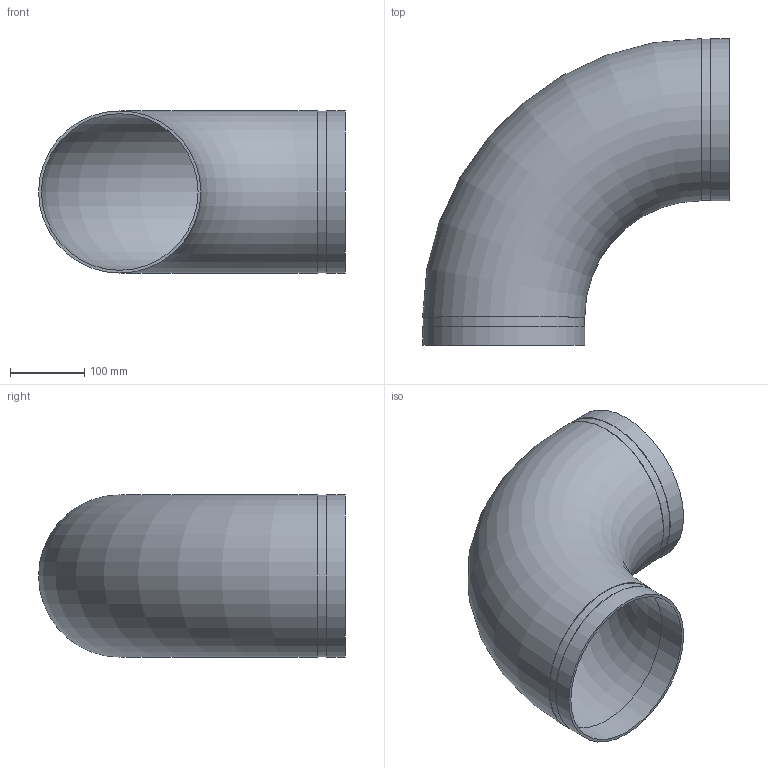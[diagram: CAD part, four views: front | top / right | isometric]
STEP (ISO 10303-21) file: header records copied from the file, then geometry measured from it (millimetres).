
FILE_DESCRIPTION(/* description */ ('VIC 90 DEG ELBOW STYLE 401DX','CAx-IF Rec.Pracs.---Representation and Presentation of Product Manufacturing Information (PMI)---4.0---2014-10-13'),/* implementation_level */ '2;1');
FILE_NAME(/* name */ 'C:\Users\kkamble\AppData\Roaming\Autodesk\ApplicationPlugins\Back Up\Victaulic_SS-StrengThin_Elbow 90 Deg_No 401DX (STG)\Victaulic_SS-StrengThin_Elbow 90 Deg_No 401DX (STG)_8 (200).stp',/* time_stamp */ '2020-08-17T13:28:21+06:00',/* author */ ('cps_temp'),/* organization */ ('Victaulic'),/* preprocessor_version */ 'ST-DEVELOPER v17.2',/* originating_system */ 'Autodesk Inventor 2019',/* authorisation */ '');
FILE_SCHEMA (('AP242_MANAGED_MODEL_BASED_3D_ENGINEERING_MIM_LF { 1 0 10303 442 1 1 4 }'));
Length unit declared in the file: inch
Products named in the file (1): 401DX-08.0
Bounding box: 414.34 x 414.34 x 219.07 mm (x, y, z)
Volume: 1247977.7 mm3; surface area: 676575.4 mm2
Topology: 1 solids, 1 shells, 14 faces, 30 edges, 22 vertices
Faces by surface type: plane 6, cylinder 6, torus 2
Full cylindrical faces by diameter (mm): 211.557 x2, 217.805 x2, 219.075 x2
Entity records: 556 total; most frequent: DIRECTION 110, CARTESIAN_POINT 84, ORIENTED_EDGE 60, AXIS2_PLACEMENT_3D 52, EDGE_CURVE 30, CIRCLE 24, VERTEX_POINT 22, EDGE_LOOP 20
